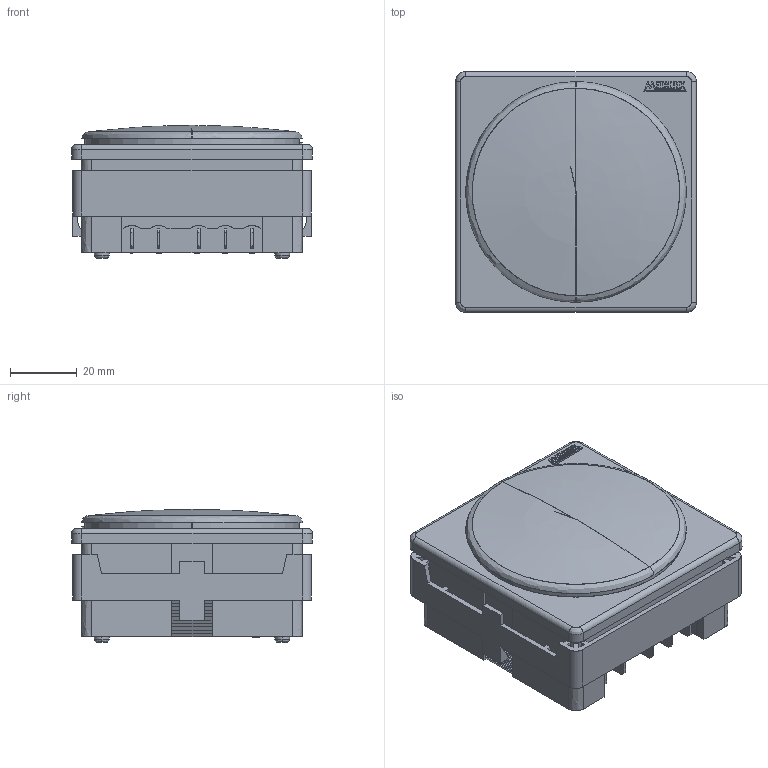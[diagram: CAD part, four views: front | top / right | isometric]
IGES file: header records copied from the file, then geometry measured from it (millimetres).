
Start section: SolidWorks IGES file using analytic representation for surfaces
Global section: file name: D:\X - Arquivos\PROEX\Empresas\P11 - METALTEX\01 - Produtos\IGES\5ª remessa\1ª etapa\TM-DSPCA4.IGS; native system: SolidWorks 2012; preprocessor: SolidWorks 2012; author: Usuario; date: 180712.144011; units: millimetre
Bounding box: 72 x 72 x 39.8 mm (x, y, z)
Surface area: 38510.2 mm2 (no closed solid volume)
Topology: 0 solids, 0 shells, 1880 faces, 16438 edges, 16437 vertices
Faces by surface type: bspline 1736, revolution 144
